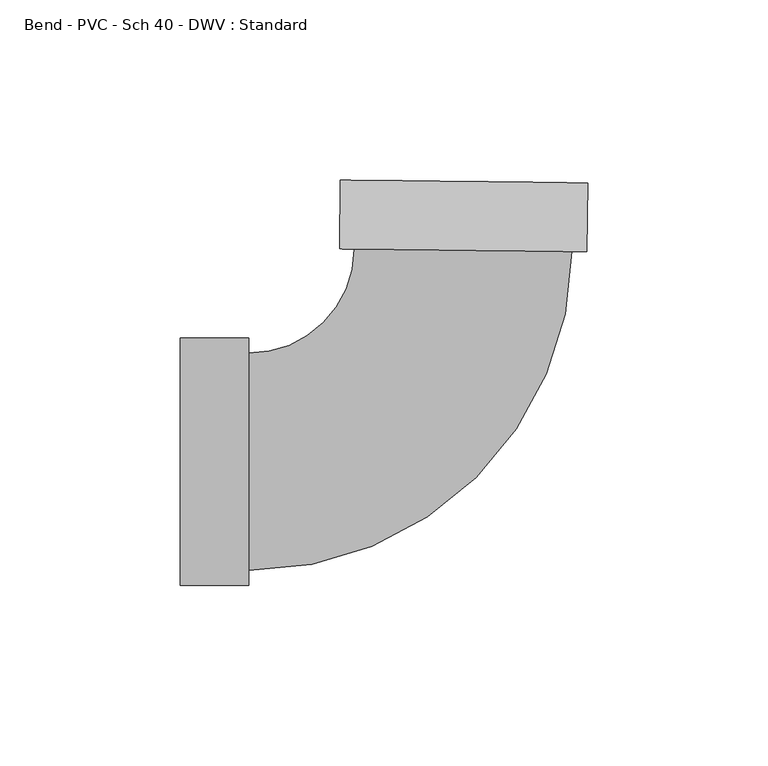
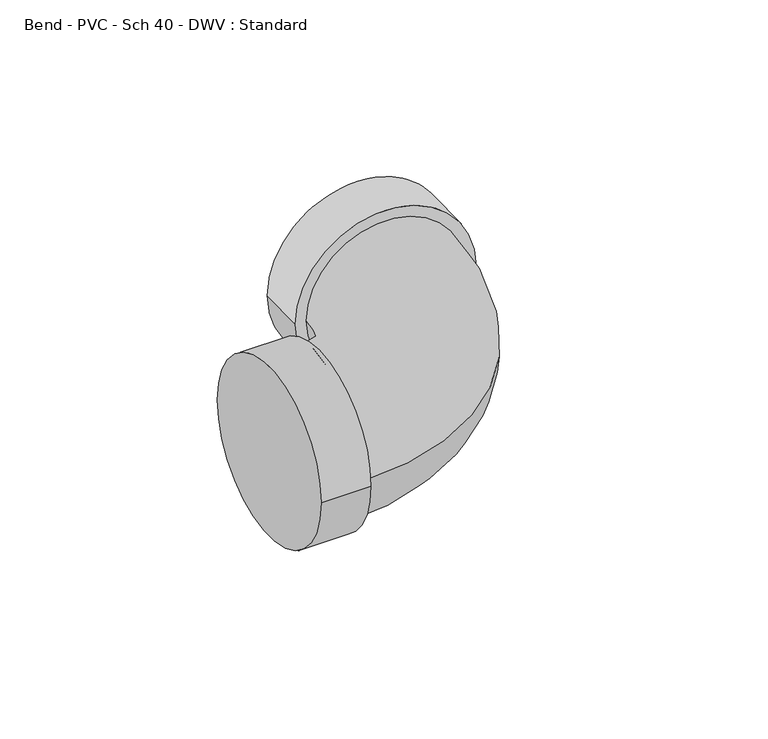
"""IFC4 building model written with IfcOpenShell, lengths in millimetres: pipe fitting geometry, Bend - PVC - Sch 40 - DWV : Standard."""

from ifc_helpers import new_model, si_unit, point, frame, origin, place, context, project, spatial, circle_curve, ellipse_curve, trimmed, source, transform, mapped, element, save
from ifc_brep_helpers import plane_surface, cylinder_surface, revolved_surface, advanced_brep


def bend_pvc_sch_40_dwv_standard_ce96d308(model_context):
    return source(origin(), model_context, "Body", "AdvancedBrep", [
        advanced_brep(
        [(-77.8002, -34.3154, 0.0), (-77.8002, 34.3154, 0.0), (-58.7502, -34.3154, 0.0), (-58.7502, 34.3154, 0.0), (-58.7502, -30.1625, 0.0), (-58.7502, 30.1625, 0.0), (-29.4840562, 59.0935939, 0.0), (30.836945, 58.3990173, 0.0), (34.9895698, 58.3512012, 0.0), (-33.6366809, 59.14141, 0.0), (35.2089097, 77.3999385, 0.0), (-33.4173409, 78.1901472, 0.0)],
        [
            (0, 1, circle_curve(frame((-77.8002, 0.0, 0.0), z_axis=(-1.0, 0.0, 0.0), x_axis=(0.0, 1.0, 0.0)), 34.3154)),
            (1, 0, circle_curve(frame((-77.8002, 0.0, 0.0), z_axis=(-1.0, 0.0, 0.0), x_axis=(0.0, 1.0, 0.0)), 34.3154)),
            (2, 3, circle_curve(frame((-58.7502, 0.0, 0.0), z_axis=(1.0, 0.0, 0.0), x_axis=(0.0, 1.0, 0.0)), 34.3154)),
            (3, 2, circle_curve(frame((-58.7502, 0.0, 0.0), z_axis=(1.0, 0.0, 0.0), x_axis=(0.0, 1.0, 0.0)), 34.3154)),
            (4, 5, circle_curve(frame((-58.7502, 0.0, 0.0), z_axis=(-1.0, 0.0, 0.0), x_axis=(0.0, 1.0, 0.0)), 30.1625)),
            (5, 4, circle_curve(frame((-58.7502, 0.0, 0.0), z_axis=(-1.0, 0.0, 0.0), x_axis=(0.0, 1.0, 0.0)), 30.1625)),
            (0, 2),
            (3, 1),
            (6, 5, circle_curve(frame((-58.7502, 59.4305839, 0.0), z_axis=(0.0, 0.0, -1.0), x_axis=(0.0, -1.0, 0.0)), 29.2680839)),
            (4, 7, circle_curve(frame((-58.7502, 59.4305839, 0.0), z_axis=(0.0, 0.0, 1.0), x_axis=(0.0, -1.0, 0.0)), 89.5930839)),
            (7, 6, circle_curve(frame((0.6764444, 58.7463056, 0.0), z_axis=(-0.011513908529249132, -0.9999337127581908, 0.0), x_axis=(-0.9999337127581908, 0.011513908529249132, 0.0)), 30.1625)),
            (6, 7, circle_curve(frame((0.6764444, 58.7463056, 0.0), z_axis=(-0.011513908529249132, -0.9999337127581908, 0.0), x_axis=(-0.9999337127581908, 0.011513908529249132, 0.0)), 30.1625)),
            (8, 9, circle_curve(frame((0.6764444, 58.7463056, 0.0), z_axis=(-0.01151390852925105, -0.9999337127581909, 0.0), x_axis=(-0.9999337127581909, 0.01151390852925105, 0.0)), 34.3154)),
            (9, 8, circle_curve(frame((0.6764444, 58.7463056, 0.0), z_axis=(-0.01151390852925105, -0.9999337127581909, 0.0), x_axis=(-0.9999337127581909, 0.01151390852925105, 0.0)), 34.3154)),
            (10, 11, circle_curve(frame((0.8957844, 77.7950428, 0.0), z_axis=(0.01151390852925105, 0.9999337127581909, 0.0), x_axis=(-0.9999337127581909, 0.01151390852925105, 0.0)), 34.3154)),
            (11, 10, circle_curve(frame((0.8957844, 77.7950428, 0.0), z_axis=(0.01151390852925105, 0.9999337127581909, 0.0), x_axis=(-0.9999337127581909, 0.01151390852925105, 0.0)), 34.3154)),
            (8, 10),
            (11, 9),
        ],
        [
            plane_surface(frame((-77.8002, 0.0, 0.0), z_axis=(-1.0, 0.0, 0.0), x_axis=(0.0, 0.0, 1.0))),
            plane_surface(frame((-58.7502, 0.0, 0.0), z_axis=(1.0, 0.0, 0.0), x_axis=(0.0, 0.0, 1.0))),
            cylinder_surface(frame((-77.8002, 0.0, 0.0), z_axis=(-1.0, 0.0, 0.0), x_axis=(0.0, 1.0, 0.0)), 34.3154),
            revolved_surface(trimmed(ellipse_curve(frame((-58.7502, 0.0, 0.0), z_axis=(-1.0, 0.0, 0.0), x_axis=(0.0, 1.0, 0.0)), 30.1625, 30.1625), [point((-58.7502, -30.1625, 0.0))], [point((-58.7502, 30.1625, 0.0))], True, "CARTESIAN"), (-58.7502, 59.4305839, 0.0), (0.0, 0.0, 1.0)),
            revolved_surface(trimmed(ellipse_curve(frame((-58.7502, 0.0, 0.0), z_axis=(-1.0, 0.0, 0.0), x_axis=(0.0, 1.0, 0.0)), 30.1625, 30.1625), [point((-58.7502, 30.1625, 0.0))], [point((-58.7502, -30.1625, 0.0))], True, "CARTESIAN"), (-58.7502, 59.4305839, 0.0), (0.0, 0.0, 1.0)),
            plane_surface(frame((0.6764444, 58.7463056, 0.0), z_axis=(-0.01151390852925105, -0.9999337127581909, 0.0), x_axis=(0.0, 0.0, 1.0))),
            plane_surface(frame((0.8957844, 77.7950428, 0.0), z_axis=(0.01151390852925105, 0.9999337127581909, 0.0), x_axis=(0.0, 0.0, 1.0))),
            cylinder_surface(frame((0.6764444, 58.7463056, 0.0), z_axis=(-0.01151390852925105, -0.9999337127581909, 0.0), x_axis=(-0.9999337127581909, 0.01151390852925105, 0.0)), 34.3154),
        ],
        [
            (0, [[1, 2]]),
            (1, [[3, 4], [5, 6]]),
            (2, [[-1, 7, -4, 8]]),
            (2, [[-2, -8, -3, -7]]),
            (3, [[9, -5, 10, 11]]),
            (4, [[-9, 12, -10, -6]]),
            (5, [[13, 14], [-11, -12]]),
            (6, [[15, 16]]),
            (7, [[-13, 17, -16, 18]]),
            (7, [[-14, -18, -15, -17]]),
        ],
    ),
    ])


if __name__ == "__main__":
    model = new_model("IFC4")
    model_context = context("Model", 3, world=origin())
    ifc_project = project(units=[si_unit("LENGTHUNIT", "METRE", prefix="MILLI")], contexts=[model_context])
    site = spatial("IfcSite", under=ifc_project)
    building = spatial("IfcBuilding", under=site)
    placement = place(None, origin())
    bend_pvc_sch_40_dwv_standard_shape = bend_pvc_sch_40_dwv_standard_ce96d308(model_context)
    element("IfcPipeFitting", 1, ObjectType="Bend - PVC - Sch 40 - DWV : Standard", at=placement, inside=building, context=model_context, shape_type="MappedRepresentation", body=[
        mapped(bend_pvc_sch_40_dwv_standard_shape, transform((0.0, 0.0, 0.0), x_axis=(1.0, 0.0, 0.0), y_axis=(0.0, 1.0, 0.0), z_axis=(0.0, 0.0, 1.0))),
    ])
    save(model, "model.ifc")
